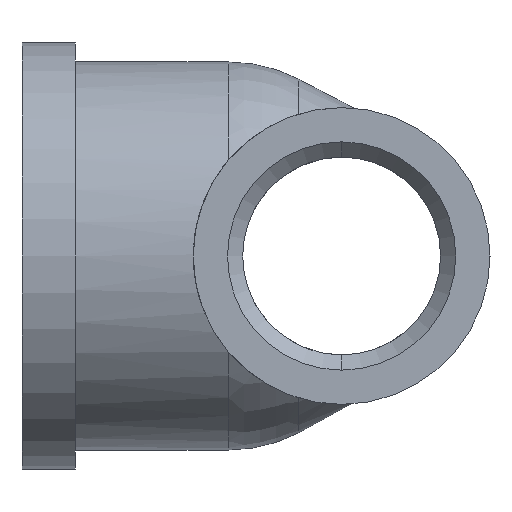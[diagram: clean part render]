
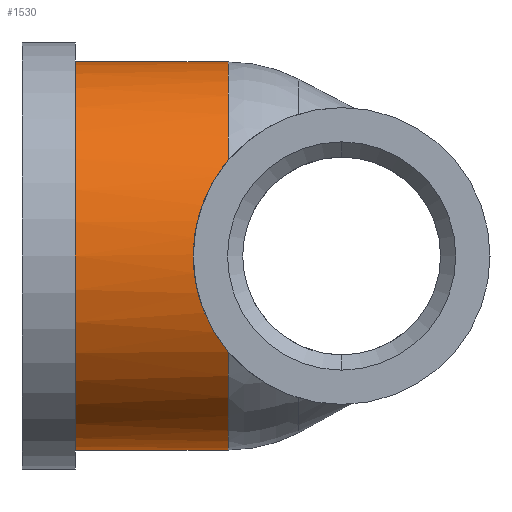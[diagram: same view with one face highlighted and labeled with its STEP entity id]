
A CAD part, left-side view. The second image highlights one B-rep face of the part: STEP entity #1530.
In plain terms, the highlighted cylindrical face has radius 12.75 mm (diameter 25.5 mm), a partial arc.
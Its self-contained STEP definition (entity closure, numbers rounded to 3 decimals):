
#245 = DIRECTION ( 'NONE',  ( 0., 0., -1. ) ) ;
#246 = DIRECTION ( 'NONE',  ( 0., 1., 0. ) ) ;
#247 = AXIS2_PLACEMENT_3D ( 'NONE', #252, #246, #245 ) ;
#248 = CIRCLE ( 'NONE', #247, 12.75 ) ;
#252 = CARTESIAN_POINT ( 'NONE',  ( 0., 7.447, 0. ) ) ;
#283 = DIRECTION ( 'NONE',  ( 0., 0., 1. ) ) ;
#284 = DIRECTION ( 'NONE',  ( 0., 1., 0. ) ) ;
#285 = CARTESIAN_POINT ( 'NONE',  ( 0., 17.5, 0. ) ) ;
#286 = AXIS2_PLACEMENT_3D ( 'NONE', #285, #284, #283 ) ;
#290 = CIRCLE ( 'NONE', #286, 12.75 ) ;
#376 = DIRECTION ( 'NONE',  ( 0., 0., 1. ) ) ;
#377 = DIRECTION ( 'NONE',  ( 0., 1., 0. ) ) ;
#378 = CARTESIAN_POINT ( 'NONE',  ( 0., 23.505, 0. ) ) ;
#379 = AXIS2_PLACEMENT_3D ( 'NONE', #378, #377, #376 ) ;
#381 = CYLINDRICAL_SURFACE ( 'NONE', #379, 12.75 ) ;
#382 = FACE_OUTER_BOUND ( 'NONE', #1531, .T. ) ;
#974 = VERTEX_POINT ( 'NONE', #1835 ) ;
#987 = EDGE_CURVE ( 'NONE', #1035, #989, #1853, .T. ) ;
#989 = VERTEX_POINT ( 'NONE', #1882 ) ;
#990 = VERTEX_POINT ( 'NONE', #1881 ) ;
#991 = EDGE_CURVE ( 'NONE', #1040, #990, #1880, .T. ) ;
#1035 = VERTEX_POINT ( 'NONE', #2002 ) ;
#1039 = EDGE_CURVE ( 'NONE', #1040, #974, #1999, .T. ) ;
#1040 = VERTEX_POINT ( 'NONE', #1994 ) ;
#1217 = VERTEX_POINT ( 'NONE', #2417 ) ;
#1219 = EDGE_CURVE ( 'NONE', #974, #1217, #2474, .T. ) ;
#1455 = ORIENTED_EDGE ( 'NONE', *, *, #991, .F. ) ;
#1456 = ORIENTED_EDGE ( 'NONE', *, *, #1039, .T. ) ;
#1457 = ORIENTED_EDGE ( 'NONE', *, *, #1219, .T. ) ;
#1458 = ORIENTED_EDGE ( 'NONE', *, *, #1459, .T. ) ;
#1459 = EDGE_CURVE ( 'NONE', #1217, #1035, #248, .T. ) ;
#1460 = ORIENTED_EDGE ( 'NONE', *, *, #987, .T. ) ;
#1461 = ORIENTED_EDGE ( 'NONE', *, *, #1474, .F. ) ;
#1474 = EDGE_CURVE ( 'NONE', #990, #989, #290, .T. ) ;
#1530 = ADVANCED_FACE ( 'NONE', ( #382 ), #381, .T. ) ;
#1531 = EDGE_LOOP ( 'NONE', ( #1455, #1456, #1457, #1458, #1460, #1461 ) ) ;
#1835 = CARTESIAN_POINT ( 'NONE',  ( -11.089, 7.447, -6.293 ) ) ;
#1850 = DIRECTION ( 'NONE',  ( 0., 1., 0. ) ) ;
#1851 = VECTOR ( 'NONE', #1850, 1000. ) ;
#1852 = CARTESIAN_POINT ( 'NONE',  ( 0., 23.505, 12.75 ) ) ;
#1853 = LINE ( 'NONE', #1852, #1851 ) ;
#1877 = DIRECTION ( 'NONE',  ( 0., 1., 0. ) ) ;
#1878 = VECTOR ( 'NONE', #1877, 1000. ) ;
#1879 = CARTESIAN_POINT ( 'NONE',  ( 0., 23.505, -12.75 ) ) ;
#1880 = LINE ( 'NONE', #1879, #1878 ) ;
#1881 = CARTESIAN_POINT ( 'NONE',  ( 0., 17.5, -12.75 ) ) ;
#1882 = CARTESIAN_POINT ( 'NONE',  ( 0., 17.5, 12.75 ) ) ;
#1994 = CARTESIAN_POINT ( 'NONE',  ( 0., 7.447, -12.75 ) ) ;
#1995 = DIRECTION ( 'NONE',  ( 0., 0., -1. ) ) ;
#1996 = DIRECTION ( 'NONE',  ( 0., 1., 0. ) ) ;
#1997 = CARTESIAN_POINT ( 'NONE',  ( 0., 7.447, 0. ) ) ;
#1998 = AXIS2_PLACEMENT_3D ( 'NONE', #1997, #1996, #1995 ) ;
#1999 = CIRCLE ( 'NONE', #1998, 12.75 ) ;
#2002 = CARTESIAN_POINT ( 'NONE',  ( 0., 7.447, 12.75 ) ) ;
#2417 = CARTESIAN_POINT ( 'NONE',  ( -11.089, 7.447, 6.293 ) ) ;
#2450 = CARTESIAN_POINT ( 'NONE',  ( -11.089, 7.447, 6.293 ) ) ;
#2451 = CARTESIAN_POINT ( 'NONE',  ( -11.325, 7.799, 5.877 ) ) ;
#2452 = CARTESIAN_POINT ( 'NONE',  ( -11.547, 8.116, 5.432 ) ) ;
#2453 = CARTESIAN_POINT ( 'NONE',  ( -11.95, 8.68, 4.475 ) ) ;
#2454 = CARTESIAN_POINT ( 'NONE',  ( -12.132, 8.928, 3.96 ) ) ;
#2455 = CARTESIAN_POINT ( 'NONE',  ( -12.43, 9.329, 2.891 ) ) ;
#2456 = CARTESIAN_POINT ( 'NONE',  ( -12.549, 9.485, 2.332 ) ) ;
#2457 = CARTESIAN_POINT ( 'NONE',  ( -12.71, 9.697, 1.171 ) ) ;
#2458 = CARTESIAN_POINT ( 'NONE',  ( -12.75, 9.75, 0.587 ) ) ;
#2459 = CARTESIAN_POINT ( 'NONE',  ( -12.75, 9.75, -0.59 ) ) ;
#2460 = CARTESIAN_POINT ( 'NONE',  ( -12.708, 9.695, -1.189 ) ) ;
#2461 = CARTESIAN_POINT ( 'NONE',  ( -12.547, 9.484, -2.337 ) ) ;
#2462 = CARTESIAN_POINT ( 'NONE',  ( -12.43, 9.329, -2.893 ) ) ;
#2463 = CARTESIAN_POINT ( 'NONE',  ( -12.129, 8.923, -3.971 ) ) ;
#2464 = CARTESIAN_POINT ( 'NONE',  ( -11.949, 8.678, -4.478 ) ) ;
#2465 = CARTESIAN_POINT ( 'NONE',  ( -11.648, 8.257, -5.192 ) ) ;
#2466 = CARTESIAN_POINT ( 'NONE',  ( -11.542, 8.108, -5.422 ) ) ;
#2467 = CARTESIAN_POINT ( 'NONE',  ( -11.322, 7.791, -5.868 ) ) ;
#2472 = CARTESIAN_POINT ( 'NONE',  ( -11.207, 7.623, -6.085 ) ) ;
#2473 = CARTESIAN_POINT ( 'NONE',  ( -11.089, 7.447, -6.293 ) ) ;
#2474 = B_SPLINE_CURVE_WITH_KNOTS ( 'NONE', 3,
 ( #2473, #2472, #2467, #2466, #2465, #2464, #2463, #2462, #2461, #2460, #2459, #2458, #2457, #2456, #2455, #2454, #2453, #2452, #2451, #2450 ),
 .UNSPECIFIED., .F., .F.,
 ( 4, 2, 2, 2, 2, 2, 2, 2, 2, 4 ),
 ( 0.041, 0.042, 0.043, 0.044, 0.046, 0.048, 0.05, 0.051, 0.053, 0.055 ),
 .UNSPECIFIED. ) ;
